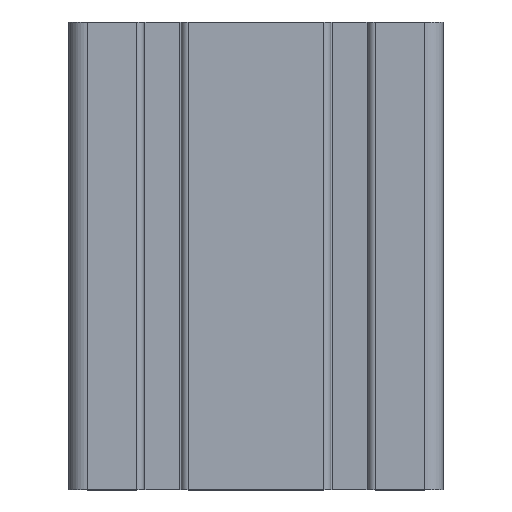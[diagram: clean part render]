
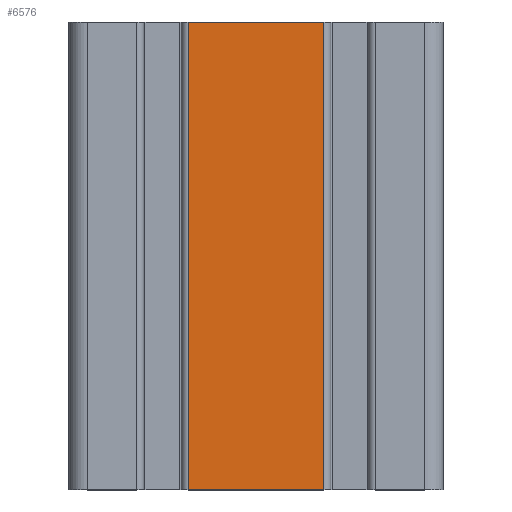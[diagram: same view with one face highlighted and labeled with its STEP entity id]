
A CAD part, top view. The second image highlights one B-rep face of the part: STEP entity #6576.
In plain terms, the highlighted planar face has unit normal (0, 0, 1).
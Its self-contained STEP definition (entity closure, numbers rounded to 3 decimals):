
#487 = CARTESIAN_POINT ( 'NONE',  ( -14.5, -50., 20. ) ) ;
#1068 = VERTEX_POINT ( 'NONE', #6757 ) ;
#1718 = VERTEX_POINT ( 'NONE', #487 ) ;
#1844 = LINE ( 'NONE', #5339, #2849 ) ;
#1970 = ORIENTED_EDGE ( 'NONE', *, *, #7350, .F. ) ;
#1980 = EDGE_CURVE ( 'NONE', #1718, #5830, #3260, .T. ) ;
#2128 = LINE ( 'NONE', #3962, #7668 ) ;
#2258 = DIRECTION ( 'NONE',  ( -1., 0., 0. ) ) ;
#2312 = ORIENTED_EDGE ( 'NONE', *, *, #7074, .F. ) ;
#2749 = EDGE_CURVE ( 'NONE', #3425, #1718, #2128, .T. ) ;
#2849 = VECTOR ( 'NONE', #3646, 1000. ) ;
#2926 = CARTESIAN_POINT ( 'NONE',  ( -14.5, 50., 20. ) ) ;
#3102 = ORIENTED_EDGE ( 'NONE', *, *, #1980, .T. ) ;
#3260 = LINE ( 'NONE', #7491, #5029 ) ;
#3339 = DIRECTION ( 'NONE',  ( 1., 0., 0. ) ) ;
#3347 = DIRECTION ( 'NONE',  ( 0., 0., -1. ) ) ;
#3425 = VERTEX_POINT ( 'NONE', #4224 ) ;
#3505 = ORIENTED_EDGE ( 'NONE', *, *, #2749, .T. ) ;
#3646 = DIRECTION ( 'NONE',  ( 0., -1., 0. ) ) ;
#3962 = CARTESIAN_POINT ( 'NONE',  ( -14.5, 50., 20. ) ) ;
#4224 = CARTESIAN_POINT ( 'NONE',  ( -14.5, 50., 20. ) ) ;
#5029 = VECTOR ( 'NONE', #3339, 1000. ) ;
#5233 = VECTOR ( 'NONE', #6933, 1000. ) ;
#5339 = CARTESIAN_POINT ( 'NONE',  ( 14.5, 50., 20. ) ) ;
#5812 = FACE_OUTER_BOUND ( 'NONE', #7267, .T. ) ;
#5830 = VERTEX_POINT ( 'NONE', #7097 ) ;
#6346 = DIRECTION ( 'NONE',  ( 0., -1., 0. ) ) ;
#6353 = PLANE ( 'NONE',  #7110 ) ;
#6576 = ADVANCED_FACE ( 'NONE', ( #5812 ), #6353, .F. ) ;
#6757 = CARTESIAN_POINT ( 'NONE',  ( 14.5, 50., 20. ) ) ;
#6843 = CARTESIAN_POINT ( 'NONE',  ( -14.5, 50., 20. ) ) ;
#6933 = DIRECTION ( 'NONE',  ( 1., 0., 0. ) ) ;
#7074 = EDGE_CURVE ( 'NONE', #1068, #5830, #1844, .T. ) ;
#7097 = CARTESIAN_POINT ( 'NONE',  ( 14.5, -50., 20. ) ) ;
#7110 = AXIS2_PLACEMENT_3D ( 'NONE', #2926, #3347, #2258 ) ;
#7267 = EDGE_LOOP ( 'NONE', ( #3102, #2312, #1970, #3505 ) ) ;
#7350 = EDGE_CURVE ( 'NONE', #3425, #1068, #7519, .T. ) ;
#7491 = CARTESIAN_POINT ( 'NONE',  ( -14.5, -50., 20. ) ) ;
#7519 = LINE ( 'NONE', #6843, #5233 ) ;
#7668 = VECTOR ( 'NONE', #6346, 1000. ) ;
